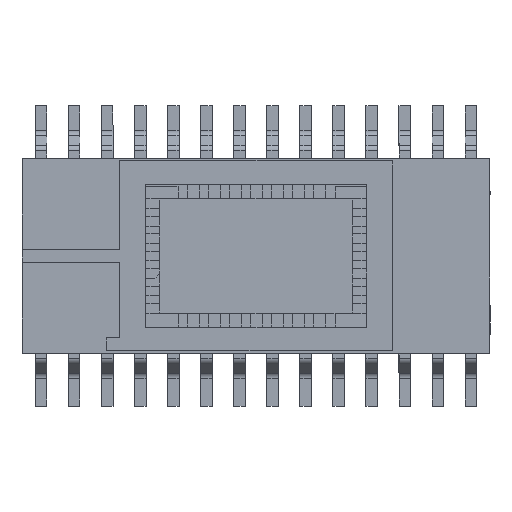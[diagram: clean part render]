
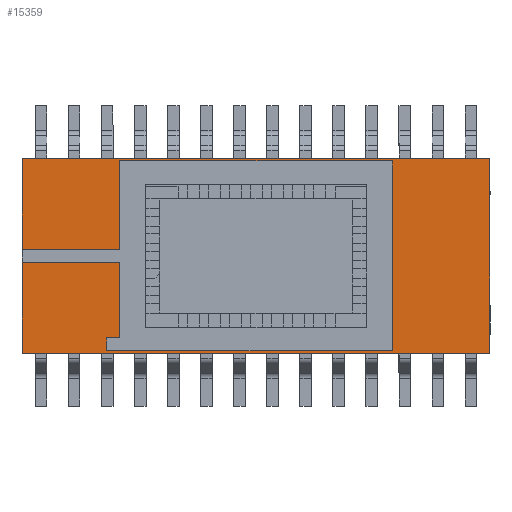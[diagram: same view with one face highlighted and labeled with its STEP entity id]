
A CAD part, top view. The second image highlights one B-rep face of the part: STEP entity #15359.
In plain terms, the highlighted planar face has unit normal (0, 0, 1).
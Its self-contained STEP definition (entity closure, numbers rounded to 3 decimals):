
#219 = VECTOR ( 'NONE', #19251, 1000. ) ;
#222 = VECTOR ( 'NONE', #18124, 1000. ) ;
#666 = DIRECTION ( 'NONE',  ( 1., 0., 0. ) ) ;
#668 = ORIENTED_EDGE ( 'NONE', *, *, #28889, .T. ) ;
#745 = CARTESIAN_POINT ( 'NONE',  ( 0.136, 13.474, 16.228 ) ) ;
#996 = CARTESIAN_POINT ( 'NONE',  ( -3.614, 13.574, 16.228 ) ) ;
#1314 = CARTESIAN_POINT ( 'NONE',  ( -3.614, 9.574, 16.228 ) ) ;
#1571 = DIRECTION ( 'NONE',  ( 0., 0., 1. ) ) ;
#1613 = LINE ( 'NONE', #18519, #15932 ) ;
#1829 = DIRECTION ( 'NONE',  ( 0., 1., 0. ) ) ;
#2176 = LINE ( 'NONE', #34381, #18967 ) ;
#2240 = CARTESIAN_POINT ( 'NONE',  ( 10.636, 13.474, 16.228 ) ) ;
#2312 = VECTOR ( 'NONE', #17453, 1000. ) ;
#2484 = ORIENTED_EDGE ( 'NONE', *, *, #9711, .F. ) ;
#3059 = CARTESIAN_POINT ( 'NONE',  ( -3.614, 10.074, 16.228 ) ) ;
#3354 = LINE ( 'NONE', #996, #7046 ) ;
#3717 = CARTESIAN_POINT ( 'NONE',  ( 14.386, 13.574, 16.228 ) ) ;
#3874 = LINE ( 'NONE', #18067, #8810 ) ;
#4216 = VERTEX_POINT ( 'NONE', #17887 ) ;
#4446 = CARTESIAN_POINT ( 'NONE',  ( -3.614, 13.574, 16.228 ) ) ;
#6338 = CARTESIAN_POINT ( 'NONE',  ( -0.364, 6.174, 16.228 ) ) ;
#6453 = CARTESIAN_POINT ( 'NONE',  ( 0.136, 13.474, 16.228 ) ) ;
#6512 = LINE ( 'NONE', #17336, #22070 ) ;
#6631 = LINE ( 'NONE', #6453, #2312 ) ;
#6827 = VECTOR ( 'NONE', #29638, 1000. ) ;
#7046 = VECTOR ( 'NONE', #30883, 1000. ) ;
#7787 = EDGE_CURVE ( 'NONE', #14980, #18980, #6631, .T. ) ;
#7831 = EDGE_CURVE ( 'NONE', #18980, #4216, #1613, .T. ) ;
#8065 = CARTESIAN_POINT ( 'NONE',  ( 0.136, 6.674, 16.228 ) ) ;
#8264 = ORIENTED_EDGE ( 'NONE', *, *, #30339, .F. ) ;
#8728 = CARTESIAN_POINT ( 'NONE',  ( -0.364, 6.174, 16.228 ) ) ;
#8810 = VECTOR ( 'NONE', #25728, 1000. ) ;
#8817 = LINE ( 'NONE', #22523, #20961 ) ;
#9119 = EDGE_CURVE ( 'NONE', #30382, #14980, #10931, .T. ) ;
#9711 = EDGE_CURVE ( 'NONE', #20884, #33665, #8817, .T. ) ;
#9741 = CARTESIAN_POINT ( 'NONE',  ( 0.136, 6.674, 16.228 ) ) ;
#10931 = LINE ( 'NONE', #2240, #6827 ) ;
#11385 = VERTEX_POINT ( 'NONE', #30350 ) ;
#12841 = VERTEX_POINT ( 'NONE', #6338 ) ;
#13385 = ORIENTED_EDGE ( 'NONE', *, *, #18576, .F. ) ;
#13732 = DIRECTION ( 'NONE',  ( 0., -1., 0. ) ) ;
#14107 = VECTOR ( 'NONE', #30373, 1000. ) ;
#14359 = LINE ( 'NONE', #30900, #14457 ) ;
#14457 = VECTOR ( 'NONE', #666, 1000. ) ;
#14656 = DIRECTION ( 'NONE',  ( 0., -1., 0. ) ) ;
#14980 = VERTEX_POINT ( 'NONE', #18096 ) ;
#15078 = FACE_OUTER_BOUND ( 'NONE', #23818, .T. ) ;
#15161 = CARTESIAN_POINT ( 'NONE',  ( -0.364, 6.674, 16.228 ) ) ;
#15359 = ADVANCED_FACE ( 'NONE', ( #15078 ), #34483, .T. ) ;
#15869 = ORIENTED_EDGE ( 'NONE', *, *, #17513, .T. ) ;
#15932 = VECTOR ( 'NONE', #23318, 1000. ) ;
#15987 = ORIENTED_EDGE ( 'NONE', *, *, #22638, .T. ) ;
#16241 = ORIENTED_EDGE ( 'NONE', *, *, #7787, .F. ) ;
#16333 = ORIENTED_EDGE ( 'NONE', *, *, #23706, .T. ) ;
#16753 = LINE ( 'NONE', #8728, #219 ) ;
#17336 = CARTESIAN_POINT ( 'NONE',  ( -3.614, 13.574, 16.228 ) ) ;
#17453 = DIRECTION ( 'NONE',  ( -1., 0., 0. ) ) ;
#17513 = EDGE_CURVE ( 'NONE', #12841, #24865, #16753, .T. ) ;
#17887 = CARTESIAN_POINT ( 'NONE',  ( 0.136, 10.074, 16.228 ) ) ;
#18067 = CARTESIAN_POINT ( 'NONE',  ( -3.614, 13.574, 16.228 ) ) ;
#18096 = CARTESIAN_POINT ( 'NONE',  ( 10.636, 13.474, 16.228 ) ) ;
#18124 = DIRECTION ( 'NONE',  ( -1., 0., 0. ) ) ;
#18519 = CARTESIAN_POINT ( 'NONE',  ( 0.136, 13.474, 16.228 ) ) ;
#18537 = CARTESIAN_POINT ( 'NONE',  ( -3.614, 6.074, 16.228 ) ) ;
#18576 = EDGE_CURVE ( 'NONE', #33665, #34723, #24784, .T. ) ;
#18967 = VECTOR ( 'NONE', #1829, 1000. ) ;
#18980 = VERTEX_POINT ( 'NONE', #30549 ) ;
#19251 = DIRECTION ( 'NONE',  ( 0., 1., 0. ) ) ;
#19683 = LINE ( 'NONE', #30541, #14107 ) ;
#20884 = VERTEX_POINT ( 'NONE', #1314 ) ;
#20961 = VECTOR ( 'NONE', #25572, 1000. ) ;
#21643 = CARTESIAN_POINT ( 'NONE',  ( 10.636, 6.174, 16.228 ) ) ;
#22070 = VECTOR ( 'NONE', #14656, 1000. ) ;
#22380 = EDGE_CURVE ( 'NONE', #4216, #27632, #27409, .T. ) ;
#22523 = CARTESIAN_POINT ( 'NONE',  ( 0.136, 9.574, 16.228 ) ) ;
#22638 = EDGE_CURVE ( 'NONE', #20884, #33979, #3354, .T. ) ;
#22668 = VERTEX_POINT ( 'NONE', #3717 ) ;
#23267 = LINE ( 'NONE', #9741, #222 ) ;
#23318 = DIRECTION ( 'NONE',  ( 0., -1., 0. ) ) ;
#23706 = EDGE_CURVE ( 'NONE', #22668, #32480, #3874, .T. ) ;
#23818 = EDGE_LOOP ( 'NONE', ( #15869, #8264, #13385, #2484, #15987, #30481, #668, #16333, #31784, #26197, #25766, #16241, #32945, #25430 ) ) ;
#24732 = DIRECTION ( 'NONE',  ( -1., 0., 0. ) ) ;
#24784 = LINE ( 'NONE', #745, #28651 ) ;
#24865 = VERTEX_POINT ( 'NONE', #15161 ) ;
#25430 = ORIENTED_EDGE ( 'NONE', *, *, #26182, .F. ) ;
#25572 = DIRECTION ( 'NONE',  ( 1., 0., 0. ) ) ;
#25622 = DIRECTION ( 'NONE',  ( 1., 0., 0. ) ) ;
#25728 = DIRECTION ( 'NONE',  ( -1., 0., 0. ) ) ;
#25766 = ORIENTED_EDGE ( 'NONE', *, *, #7831, .F. ) ;
#26182 = EDGE_CURVE ( 'NONE', #12841, #30382, #19683, .T. ) ;
#26197 = ORIENTED_EDGE ( 'NONE', *, *, #22380, .F. ) ;
#27409 = LINE ( 'NONE', #3059, #33142 ) ;
#27632 = VERTEX_POINT ( 'NONE', #33150 ) ;
#27964 = AXIS2_PLACEMENT_3D ( 'NONE', #31988, #1571, #25622 ) ;
#28651 = VECTOR ( 'NONE', #13732, 1000. ) ;
#28889 = EDGE_CURVE ( 'NONE', #11385, #22668, #2176, .T. ) ;
#29638 = DIRECTION ( 'NONE',  ( 0., 1., 0. ) ) ;
#30339 = EDGE_CURVE ( 'NONE', #34723, #24865, #23267, .T. ) ;
#30350 = CARTESIAN_POINT ( 'NONE',  ( 14.386, 6.074, 16.228 ) ) ;
#30373 = DIRECTION ( 'NONE',  ( 1., 0., 0. ) ) ;
#30382 = VERTEX_POINT ( 'NONE', #21643 ) ;
#30481 = ORIENTED_EDGE ( 'NONE', *, *, #31384, .T. ) ;
#30541 = CARTESIAN_POINT ( 'NONE',  ( 0.136, 6.174, 16.228 ) ) ;
#30549 = CARTESIAN_POINT ( 'NONE',  ( 0.136, 13.474, 16.228 ) ) ;
#30883 = DIRECTION ( 'NONE',  ( 0., -1., 0. ) ) ;
#30900 = CARTESIAN_POINT ( 'NONE',  ( -3.614, 6.074, 16.228 ) ) ;
#31384 = EDGE_CURVE ( 'NONE', #33979, #11385, #14359, .T. ) ;
#31734 = CARTESIAN_POINT ( 'NONE',  ( 0.136, 9.574, 16.228 ) ) ;
#31784 = ORIENTED_EDGE ( 'NONE', *, *, #33572, .T. ) ;
#31988 = CARTESIAN_POINT ( 'NONE',  ( 5.386, 9.824, 16.228 ) ) ;
#32480 = VERTEX_POINT ( 'NONE', #4446 ) ;
#32945 = ORIENTED_EDGE ( 'NONE', *, *, #9119, .F. ) ;
#33142 = VECTOR ( 'NONE', #24732, 1000. ) ;
#33150 = CARTESIAN_POINT ( 'NONE',  ( -3.614, 10.074, 16.228 ) ) ;
#33572 = EDGE_CURVE ( 'NONE', #32480, #27632, #6512, .T. ) ;
#33665 = VERTEX_POINT ( 'NONE', #31734 ) ;
#33979 = VERTEX_POINT ( 'NONE', #18537 ) ;
#34381 = CARTESIAN_POINT ( 'NONE',  ( 14.386, 13.574, 16.228 ) ) ;
#34483 = PLANE ( 'NONE',  #27964 ) ;
#34723 = VERTEX_POINT ( 'NONE', #8065 ) ;
